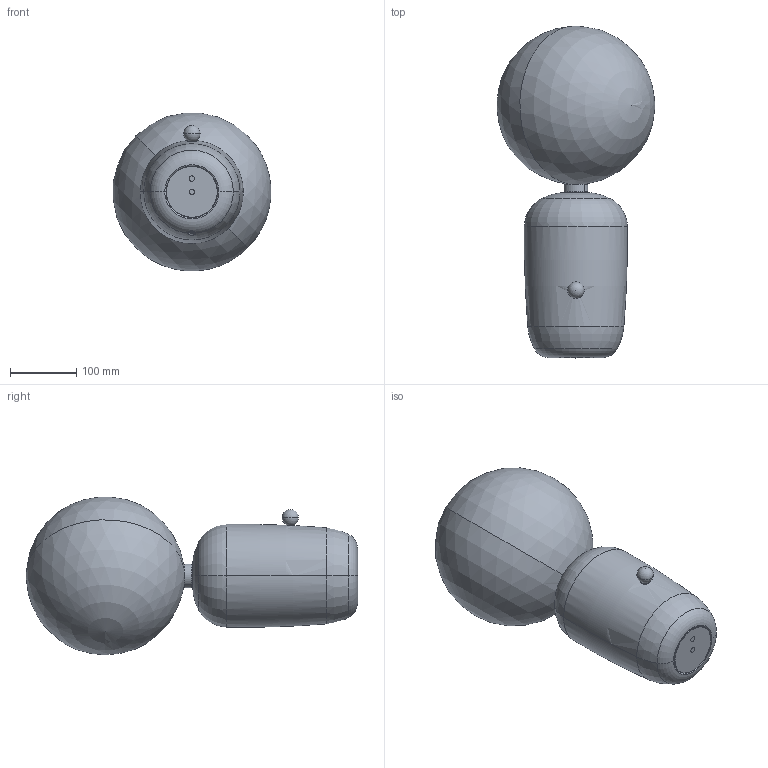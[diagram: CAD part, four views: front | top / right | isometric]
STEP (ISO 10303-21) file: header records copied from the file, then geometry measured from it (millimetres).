
FILE_DESCRIPTION (( 'STEP AP214' ), '1' );
FILE_NAME ('ABALLS M GRANDE.STEP', '2014-08-28T08:57:34', ( '' ), ( '' ), 'SwSTEP 2.0', 'SolidWorks 2010', '' );
FILE_SCHEMA (( 'AUTOMOTIVE_DESIGN' ));
Length unit declared in the file: millimetre
Products named in the file (7): 061700100119 - CILINDRO CUELLO DIAM.36X13MM; 067600400103 - DIFUSOR CRISTAL OPAL BLANCO MATE DIAM.240 TALADRO 30MM; 014200100119 - REGUL EMBELLECEDOR  DIAM.25MM; 053700200006 - FIELTRO DIAM.77 NEGRO; 026700800114 - DISCO DIAM.77X2MM NIQUEL; 052700100000 - CERÁM DIAM.156X250MM; ABALLS M GRANDE
Assembly tree (6 placements, depth 2):
  ABALLS M GRANDE
    052700100000 - CERÁM DIAM.156X250MM
    053700200006 - FIELTRO DIAM.77 NEGRO
    014200100119 - REGUL EMBELLECEDOR  DIAM.25MM
    067600400103 - DIFUSOR CRISTAL OPAL BLANCO MATE DIAM.240 TALADRO 30MM
    061700100119 - CILINDRO CUELLO DIAM.36X13MM
    026700800114 - DISCO DIAM.77X2MM NIQUEL
Bounding box: 238.97 x 502.82 x 238.97 mm (x, y, z)
Volume: 1392873 mm3; surface area: 623080.7 mm2
Topology: 6 solids, 6 shells, 113 faces, 275 edges, 174 vertices
Faces by surface type: cylinder 53, torus 22, plane 22, cone 6, sphere 6, bspline 4
Entity records: 7462 total; most frequent: CARTESIAN_POINT 4338, DIRECTION 635, ORIENTED_EDGE 522, AXIS2_PLACEMENT_3D 282, EDGE_CURVE 261, VERTEX_POINT 166, CIRCLE 164, EDGE_LOOP 145
